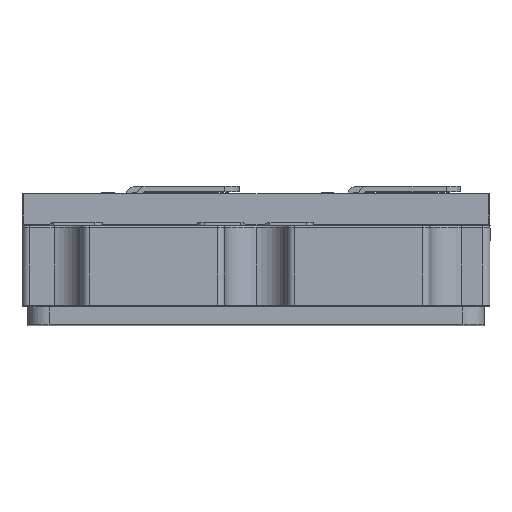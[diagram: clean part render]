
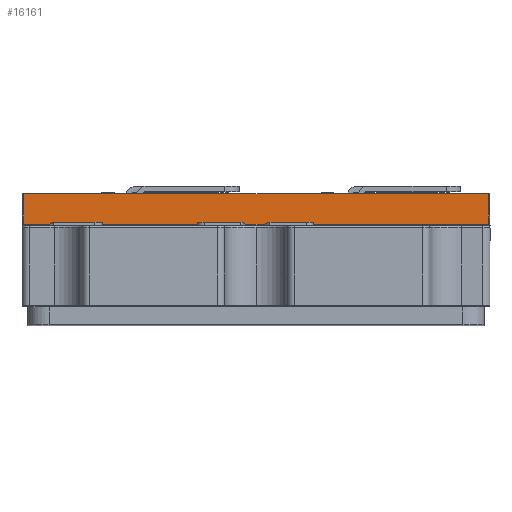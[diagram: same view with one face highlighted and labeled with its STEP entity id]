
A CAD part, top view. The second image highlights one B-rep face of the part: STEP entity #16161.
In plain terms, the highlighted planar face has unit normal (0, 0, 1).
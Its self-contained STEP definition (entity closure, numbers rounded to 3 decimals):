
#940 = ORIENTED_EDGE ( 'NONE', *, *, #18459, .F. ) ;
#2498 = EDGE_LOOP ( 'NONE', ( #9625, #12168, #15926, #940 ) ) ;
#2786 = VECTOR ( 'NONE', #9966, 1000. ) ;
#2839 = LINE ( 'NONE', #29725, #2786 ) ;
#3203 = CARTESIAN_POINT ( 'NONE',  ( 135.771, 12., -404.761 ) ) ;
#3704 = DIRECTION ( 'NONE',  ( -1., 0., 0. ) ) ;
#6309 = DIRECTION ( 'NONE',  ( 1., 0., 0. ) ) ;
#8330 = EDGE_CURVE ( 'NONE', #26334, #15026, #10994, .T. ) ;
#9625 = ORIENTED_EDGE ( 'NONE', *, *, #8330, .T. ) ;
#9636 = VERTEX_POINT ( 'NONE', #16675 ) ;
#9966 = DIRECTION ( 'NONE',  ( 0., 1., 0. ) ) ;
#10994 = LINE ( 'NONE', #20876, #15821 ) ;
#11379 = DIRECTION ( 'NONE',  ( 1., 0., 0. ) ) ;
#11537 = CARTESIAN_POINT ( 'NONE',  ( 265.271, 12., -404.761 ) ) ;
#12168 = ORIENTED_EDGE ( 'NONE', *, *, #19877, .F. ) ;
#13889 = LINE ( 'NONE', #31969, #20010 ) ;
#15026 = VERTEX_POINT ( 'NONE', #25484 ) ;
#15821 = VECTOR ( 'NONE', #6309, 1000. ) ;
#15926 = ORIENTED_EDGE ( 'NONE', *, *, #25505, .T. ) ;
#16161 = ADVANCED_FACE ( 'NONE', ( #27641 ), #25215, .T. ) ;
#16258 = DIRECTION ( 'NONE',  ( 0., 0., 1. ) ) ;
#16675 = CARTESIAN_POINT ( 'NONE',  ( 264.771, 12., -404.761 ) ) ;
#18459 = EDGE_CURVE ( 'NONE', #26334, #26923, #2839, .T. ) ;
#19877 = EDGE_CURVE ( 'NONE', #9636, #15026, #13889, .T. ) ;
#20010 = VECTOR ( 'NONE', #23766, 1000. ) ;
#20876 = CARTESIAN_POINT ( 'NONE',  ( 265.271, 3.5, -404.761 ) ) ;
#22948 = VECTOR ( 'NONE', #3704, 1000. ) ;
#22993 = CARTESIAN_POINT ( 'NONE',  ( 265.271, 12., -404.761 ) ) ;
#23311 = LINE ( 'NONE', #22993, #22948 ) ;
#23766 = DIRECTION ( 'NONE',  ( 0., -1., 0. ) ) ;
#24953 = AXIS2_PLACEMENT_3D ( 'NONE', #11537, #16258, #11379 ) ;
#25215 = PLANE ( 'NONE',  #24953 ) ;
#25484 = CARTESIAN_POINT ( 'NONE',  ( 264.771, 3.5, -404.761 ) ) ;
#25505 = EDGE_CURVE ( 'NONE', #9636, #26923, #23311, .T. ) ;
#26334 = VERTEX_POINT ( 'NONE', #29475 ) ;
#26923 = VERTEX_POINT ( 'NONE', #3203 ) ;
#27641 = FACE_OUTER_BOUND ( 'NONE', #2498, .T. ) ;
#29475 = CARTESIAN_POINT ( 'NONE',  ( 135.771, 3.5, -404.761 ) ) ;
#29725 = CARTESIAN_POINT ( 'NONE',  ( 135.771, 12., -404.761 ) ) ;
#31969 = CARTESIAN_POINT ( 'NONE',  ( 264.771, 3., -404.761 ) ) ;
